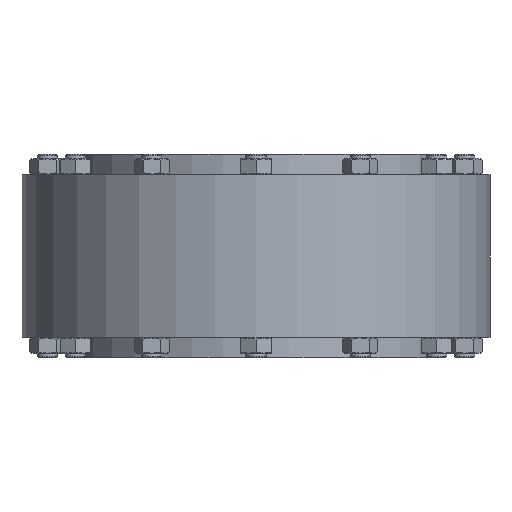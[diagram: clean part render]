
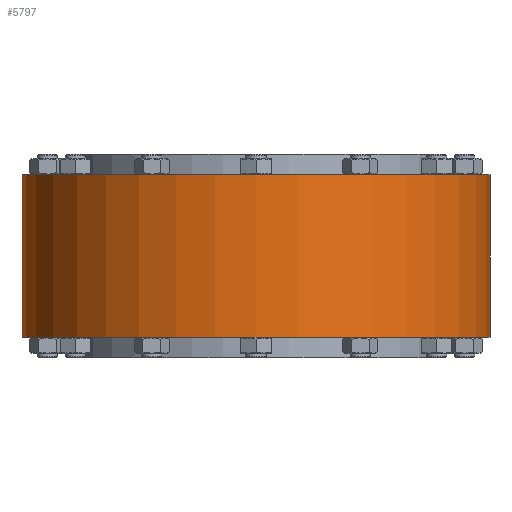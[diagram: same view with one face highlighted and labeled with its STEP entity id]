
A CAD part, front view. The second image highlights one B-rep face of the part: STEP entity #5797.
In plain terms, the highlighted cylindrical face has radius 230 mm (diameter 460 mm), a full revolution.
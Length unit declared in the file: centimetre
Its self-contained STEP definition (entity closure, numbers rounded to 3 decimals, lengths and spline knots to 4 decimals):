
#1050=FACE_BOUND('',#1938,.T.);
#1436=FACE_OUTER_BOUND('',#1937,.T.);
#1937=EDGE_LOOP('',(#4509));
#1938=EDGE_LOOP('',(#4510));
#2444=CIRCLE('',#6344,23.);
#2445=CIRCLE('',#6345,23.);
#2872=VERTEX_POINT('',#9372);
#2873=VERTEX_POINT('',#9374);
#3498=EDGE_CURVE('',#2872,#2872,#2444,.T.);
#3499=EDGE_CURVE('',#2873,#2873,#2445,.T.);
#4509=ORIENTED_EDGE('',*,*,#3498,.F.);
#4510=ORIENTED_EDGE('',*,*,#3499,.F.);
#5178=CYLINDRICAL_SURFACE('',#6343,23.);
#5797=ADVANCED_FACE('',(#1436,#1050),#5178,.T.);
#6343=AXIS2_PLACEMENT_3D('',#9371,#7401,#7402);
#6344=AXIS2_PLACEMENT_3D('',#9373,#7403,#7404);
#6345=AXIS2_PLACEMENT_3D('',#9375,#7405,#7406);
#7401=DIRECTION('center_axis',(0.,0.,
-1.));
#7402=DIRECTION('ref_axis',(0.,1.,0.));
#7403=DIRECTION('center_axis',(0.,0.,
1.));
#7404=DIRECTION('ref_axis',(0.,-1.,0.));
#7405=DIRECTION('center_axis',(0.,0.,
-1.));
#7406=DIRECTION('ref_axis',(-1.,0.,0.));
#9371=CARTESIAN_POINT('Origin',(0.,0.,
-7.45));
#9372=CARTESIAN_POINT('',(-23.,0.,8.));
#9373=CARTESIAN_POINT('Origin',(0.,0.,
8.));
#9374=CARTESIAN_POINT('',(-23.,0.,-8.));
#9375=CARTESIAN_POINT('Origin',(0.,0.,
-8.));
